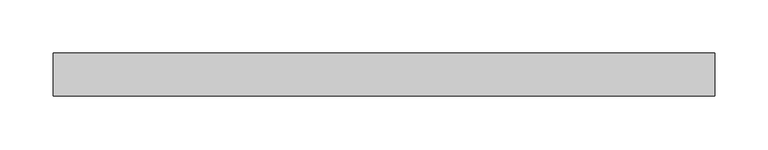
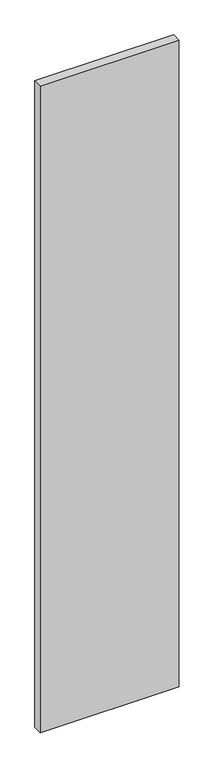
"""IFC4 building model written with IfcOpenShell, lengths in millimetres: plate geometry, Vitré."""

from ifc_helpers import new_model, si_unit, origin, origin_with_axes, place, context, project, spatial, polyline, outline, extrude, source, transform, mapped, element, save


def plate_4d061043(model_context):
    return source(origin(), model_context, "Body", "SweptSolid", [
        extrude(outline(polyline([(-309.4062498, -20.0), (-309.4062498, 20.0), (309.4062498, 20.0), (309.4062498, -20.0), (-309.4062498, -20.0)])), origin_with_axes(), (0.0, 0.0, 1.0), 3047.625),
    ])


if __name__ == "__main__":
    model = new_model("IFC4")
    model_context = context("Model", 3, world=origin())
    ifc_project = project(units=[si_unit("LENGTHUNIT", "METRE", prefix="MILLI")], contexts=[model_context])
    site = spatial("IfcSite", under=ifc_project)
    building = spatial("IfcBuilding", under=site)
    placement = place(None, origin())
    plate_shape = plate_4d061043(model_context)
    element("IfcPlate", 1, ObjectType="Vitré", at=placement, inside=building, context=model_context, shape_type="MappedRepresentation", body=[
        mapped(plate_shape, transform((0.0, 0.0, 0.0), x_axis=(1.0, 0.0, 0.0), y_axis=(0.0, 1.0, 0.0), z_axis=(0.0, 0.0, 1.0))),
    ])
    save(model, "model.ifc")
